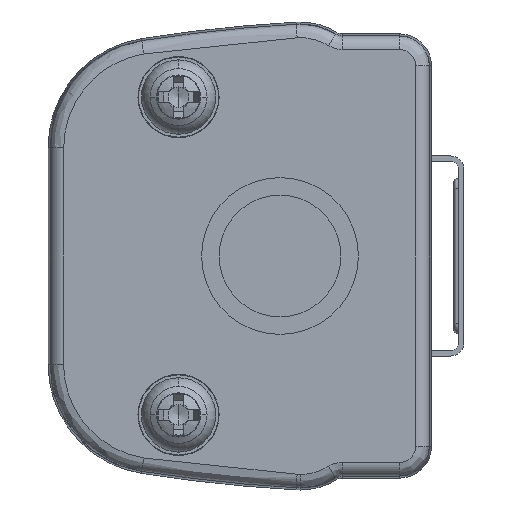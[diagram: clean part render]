
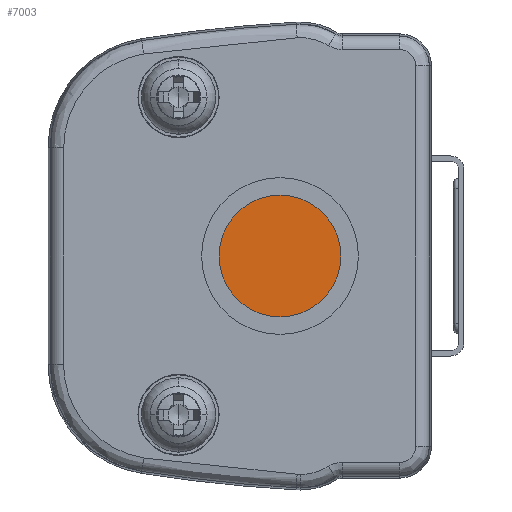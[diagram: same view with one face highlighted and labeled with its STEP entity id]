
A CAD part, left-side view. The second image highlights one B-rep face of the part: STEP entity #7003.
In plain terms, the highlighted planar face has unit normal (-1, 0, 0).
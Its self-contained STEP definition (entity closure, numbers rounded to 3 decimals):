
#399 = CARTESIAN_POINT ( 'NONE',  ( -157.2, -2.628, 300.5 ) ) ;
#710 = EDGE_LOOP ( 'NONE', ( #8131, #7145 ) ) ;
#1610 = CARTESIAN_POINT ( 'NONE',  ( -157.2, -2.628, 305. ) ) ;
#2752 = DIRECTION ( 'NONE',  ( 0., 0., 1. ) ) ;
#3255 = AXIS2_PLACEMENT_3D ( 'NONE', #1610, #8766, #5239 ) ;
#5012 = CIRCLE ( 'NONE', #3255, 4.5 ) ;
#5239 = DIRECTION ( 'NONE',  ( 0., 0., 1. ) ) ;
#5956 = EDGE_CURVE ( 'NONE', #6180, #12576, #5012, .T. ) ;
#6175 = AXIS2_PLACEMENT_3D ( 'NONE', #6611, #11385, #11614 ) ;
#6180 = VERTEX_POINT ( 'NONE', #8130 ) ;
#6454 = DIRECTION ( 'NONE',  ( -1., 0., 0. ) ) ;
#6611 = CARTESIAN_POINT ( 'NONE',  ( -157.2, -2.628, 305. ) ) ;
#7003 = ADVANCED_FACE ( 'NONE', ( #13908 ), #10527, .T. ) ;
#7145 = ORIENTED_EDGE ( 'NONE', *, *, #9908, .T. ) ;
#8130 = CARTESIAN_POINT ( 'NONE',  ( -157.2, -2.628, 309.5 ) ) ;
#8131 = ORIENTED_EDGE ( 'NONE', *, *, #5956, .T. ) ;
#8766 = DIRECTION ( 'NONE',  ( -1., 0., 0. ) ) ;
#8987 = CIRCLE ( 'NONE', #13504, 4.5 ) ;
#9908 = EDGE_CURVE ( 'NONE', #12576, #6180, #8987, .T. ) ;
#10527 = PLANE ( 'NONE',  #6175 ) ;
#11385 = DIRECTION ( 'NONE',  ( -1., 0., 0. ) ) ;
#11614 = DIRECTION ( 'NONE',  ( 0., 0., 1. ) ) ;
#12576 = VERTEX_POINT ( 'NONE', #399 ) ;
#13504 = AXIS2_PLACEMENT_3D ( 'NONE', #13668, #6454, #2752 ) ;
#13668 = CARTESIAN_POINT ( 'NONE',  ( -157.2, -2.628, 305. ) ) ;
#13908 = FACE_OUTER_BOUND ( 'NONE', #710, .T. ) ;
